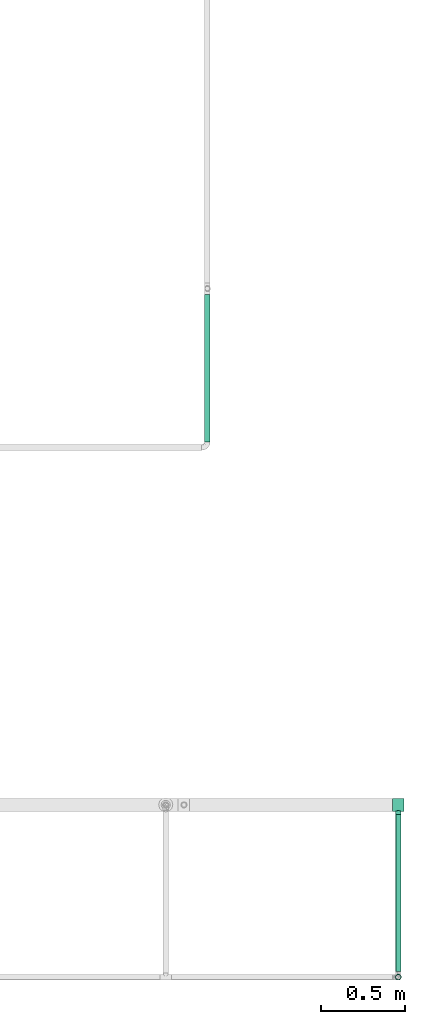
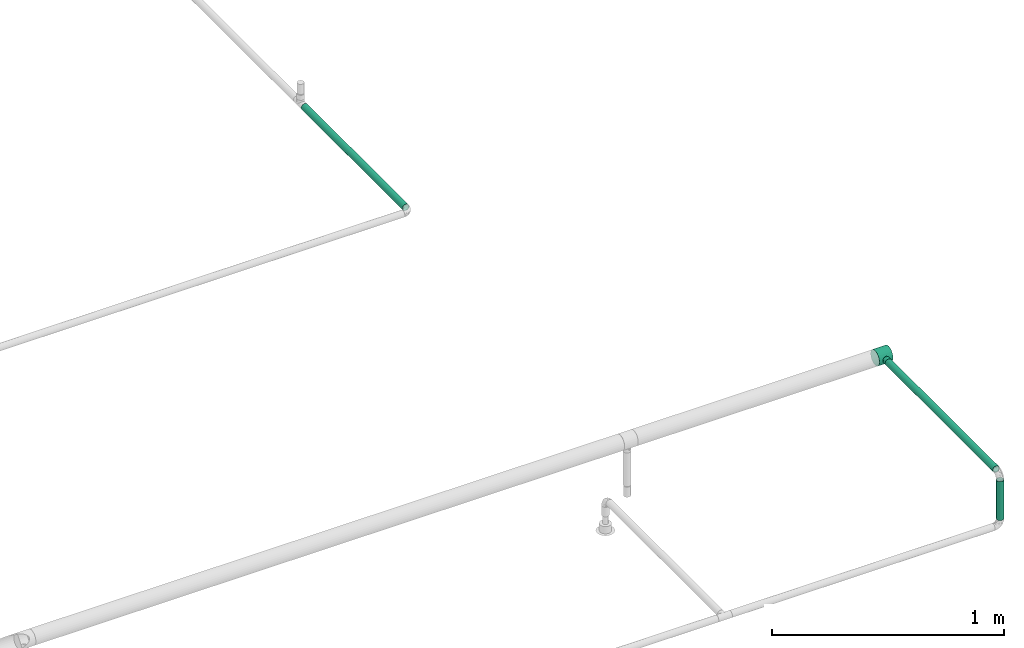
# One storey, part 15 of 45: 3 flow segments, 1 flow fitting.
"""IFC2X3 building model written with IfcOpenShell, lengths in millimetres."""

from ifc_helpers import new_model, entity, si_unit, converted_unit, derived_unit, direction, frame, origin_with_axes, origin_2d_with_axis, place, context, subcontext, project, spatial, hollow_circle, extrude, open_shell, surface_model, source, transform, mapped, type_object, element, save


model = new_model("IFC2X3")

# Units and contexts
model_context = context("Model", 3, precision=0.01, world=frame((0.0, 4.29681676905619e-09, 0.0)), true_north=direction((4.01073788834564e-13, 1.0)))
plan_context = context("Plan", 3, precision=0.01, world=frame((0.0, 4.29681676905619e-09, 0.0)), true_north=direction((4.01073788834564e-13, 1.0)))
body_context = subcontext(model_context, "Body", "Model", "MODEL_VIEW")
ifc_project = project(units=[converted_unit("PLANEANGLEUNIT", "DEGREE", entity("IfcPositiveLengthMeasure", 0.0174532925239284), si_unit("PLANEANGLEUNIT", "RADIAN"), dimensions=[0, 0, 0, 0, 0, 0, 0]), si_unit("AREAUNIT", "SQUARE_METRE"), si_unit("LENGTHUNIT", "METRE", prefix="MILLI"), si_unit("MASSUNIT", "GRAM", prefix="KILO"), si_unit("POWERUNIT", "WATT"), si_unit("PRESSUREUNIT", "PASCAL", prefix="KILO"), si_unit("FORCEUNIT", "NEWTON", prefix="KILO"), si_unit("ELECTRICVOLTAGEUNIT", "VOLT"), si_unit("ELECTRICCURRENTUNIT", "AMPERE"), si_unit("THERMODYNAMICTEMPERATUREUNIT", "DEGREE_CELSIUS"), si_unit("TIMEUNIT", "SECOND"), si_unit("VOLUMEUNIT", "CUBIC_METRE"), derived_unit("LINEARVELOCITYUNIT", [(si_unit("LENGTHUNIT", "METRE"), 1), (si_unit("TIMEUNIT", "SECOND"), -1)]), derived_unit("VOLUMETRICFLOWRATEUNIT", [(si_unit("VOLUMEUNIT", "CUBIC_METRE"), 1), (si_unit("TIMEUNIT", "SECOND"), -1)]), derived_unit("THERMALTRANSMITTANCEUNIT", [(si_unit("POWERUNIT", "WATT"), 1), (si_unit("THERMODYNAMICTEMPERATUREUNIT", "KELVIN"), -1), (si_unit("AREAUNIT", "SQUARE_METRE"), -1)]), derived_unit("SOUNDPRESSUREUNIT", [(si_unit("PRESSUREUNIT", "PASCAL"), 1)])], contexts=[model_context, plan_context])

# Site, building, storey
site_placement = place(None, frame((0.0, -4.29681676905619e-09, 0.0), z_axis=(0.0, 0.0, 1.0), x_axis=(1.0, 0.0, 0.0)))
site = spatial("IfcSite", under=ifc_project, at=site_placement, CompositionType="ELEMENT")
building_placement = place(site_placement, frame((0.0, 4.29681676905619e-09, 0.0), z_axis=(0.0, 0.0, 1.0), x_axis=(1.0, 0.0, 0.0)))
building = spatial("IfcBuilding", under=site, at=building_placement, Name="mc-building", CompositionType="ELEMENT")
storey_placement = place(building_placement, frame((0.0, 0.0, 210200.0), z_axis=(0.0, 0.0, 1.0), x_axis=(1.0, 0.0, 0.0)))
storey = spatial("IfcBuildingStorey", under=building, at=storey_placement, Name="Nivå F - 0,7 m", CompositionType="ELEMENT", Elevation=210200.0)

# Flow fitting
pipe_fitting_type = type_object("IfcPipeFittingType", Name="magi_pipe_fe_tee_centric_90_001", PredefinedType="JUNCTION")
shared_shape_1 = source(origin_with_axes(), body_context, "Body", "SurfaceModel", [
    surface_model("IfcShellBasedSurfaceModel", [(-33.8, 9.86101, -36.80177), (-33.8, 0.0, -38.1), (-33.8, 36.80177, -9.86101), (-33.8, 19.05, -32.99557), (-33.8, 32.99557, -19.05), (-33.8, 26.94077, -26.94077), (-33.8, -38.1, 0.0), (-33.8, -19.05, -32.99557), (-33.8, -26.94077, -26.94077), (-33.8, -9.86101, -36.80177), (-33.8, -32.99557, -19.05), (-33.8, -36.80177, -9.86101), (-33.8, 38.1, 0.0), (-33.8, 32.99557, 19.05), (-33.8, 36.80177, 9.86101), (-33.8, -36.80177, 9.86101), (-33.8, 19.05, 32.99557), (-33.8, 26.94077, 26.94077), (-33.8, 9.86101, 36.80177), (-33.8, 0.0, 38.1), (-33.8, -26.94077, 26.94077), (-33.8, -32.99557, 19.05), (-33.8, -9.86101, 36.80177), (-33.8, -19.05, 32.99557), (33.8, 0.0, -38.1), (33.8, 9.86101, -36.80177), (33.8, 19.05, -32.99557), (33.8, 26.94077, -26.94077), (33.8, 32.99557, -19.05), (33.8, 36.80177, -9.86101), (33.8, -38.1, 0.0), (33.8, -9.86101, -36.80177), (33.8, -26.94077, -26.94077), (33.8, -19.05, -32.99557), (33.8, -32.99557, -19.05), (33.8, -36.80177, -9.86101), (33.8, 36.80177, 9.86101), (33.8, 32.99557, 19.05), (33.8, 19.05, 32.99557), (33.8, 0.0, 38.1), (33.8, 26.94077, 26.94077), (33.8, 9.86101, 36.80177), (33.8, -26.94077, 26.94077), (33.8, -32.99557, 19.05), (33.8, -36.80177, 9.86101), (33.8, -19.05, 32.99557), (33.8, -9.86101, 36.80177), (33.8, 38.1, 0.0), (33.8, -37.45089, 4.9305), (15.86072, -37.65053, 5.83504), (16.9, -38.1, 0.0), (12.92726, -36.51183, 10.88559), (2.96752, -34.27545, 16.63742), (33.8, -34.89867, 14.4555), (8.48894, -35.18611, 14.61328), (-8.4904, -35.18646, 14.61243), (-33.8, -34.89867, 14.4555), (-15.8612, -37.65073, 5.83372), (-33.8, -37.45089, 4.9305), (-16.9, -38.1, 0.0), (-12.9317, -36.51341, 10.88031), (-2.97221, -34.27585, 16.63658), (-33.8, -37.45089, -4.9305), (-15.8612, -37.65073, -5.83372), (15.86072, -37.65053, -5.83504), (33.8, -37.45089, -4.9305), (-12.9317, -36.51341, -10.88031), (-33.8, -34.89867, -14.4555), (-8.4904, -35.18646, -14.61243), (2.96752, -34.27545, -16.63742), (8.48894, -35.18611, -14.61328), (33.8, -34.89867, -14.4555), (12.92726, -36.51183, -10.88559), (-2.97221, -34.27585, -16.63658), (4.37404, -57.15, -16.32415), (-16.9, -57.15, 0.0), (0.0, -57.15, -16.9), (14.63583, -57.15, -8.45), (8.45, -57.15, -14.63583), (16.32415, -57.15, -4.37404), (11.9501, -57.15, -11.9501), (-11.9501, -57.15, -11.9501), (-8.45, -57.15, -14.63583), (-4.37404, -57.15, -16.32415), (-14.63583, -57.15, -8.45), (-16.32415, -57.15, -4.37404), (16.9, -57.15, 0.0), (8.45, -57.15, 14.63583), (16.32415, -57.15, 4.37404), (14.63583, -57.15, 8.45), (-8.45, -57.15, 14.63583), (11.9501, -57.15, 11.9501), (4.37404, -57.15, 16.32415), (-16.32415, -57.15, 4.37404), (-11.9501, -57.15, 11.9501), (-14.63583, -57.15, 8.45), (0.0, -57.15, 16.9), (-4.37404, -57.15, 16.32415), (-16.3806, -37.87537, 2.91686), (-5.7313, -34.73116, 15.62451), (-0.00235, -34.27565, 16.637), (5.72823, -34.73078, 15.62535), (16.38036, -37.87526, 2.91752), (16.38036, -37.87526, -2.91752), (5.72823, -34.73078, -15.62535), (-0.00235, -34.27565, -16.637), (-5.7313, -34.73116, -15.62451), (-16.3806, -37.87537, -2.91686)], [open_shell([[[0, 1, 2]], [[3, 0, 2]], [[2, 4, 5]], [[3, 2, 5]], [[6, 2, 1]], [[7, 8, 9]], [[8, 1, 9]], [[10, 11, 8]], [[6, 8, 11]], [[8, 6, 1]], [[6, 12, 2]], [[13, 14, 12]], [[15, 13, 6]], [[16, 13, 15]], [[17, 13, 16]], [[18, 16, 19]], [[20, 19, 21]], [[16, 15, 21]], [[22, 19, 23]], [[20, 23, 19]], [[21, 19, 16]], [[12, 6, 13]], [[24, 25, 26]], [[24, 26, 27]], [[27, 28, 29]], [[24, 27, 30]], [[30, 27, 29]], [[31, 32, 33]], [[31, 24, 32]], [[34, 30, 35]], [[30, 34, 32]], [[24, 30, 32]], [[29, 36, 30]], [[36, 37, 30]], [[30, 37, 38]], [[38, 39, 30]], [[38, 37, 40]], [[39, 38, 41]], [[30, 42, 43]], [[44, 30, 43]], [[45, 39, 46]], [[45, 42, 30]], [[30, 39, 45]], [[36, 29, 47]], [[48, 44, 49]], [[50, 30, 48]], [[44, 51, 49]], [[43, 42, 52]], [[50, 48, 49]], [[44, 53, 51]], [[52, 54, 43]], [[42, 20, 52]], [[54, 53, 43]], [[55, 21, 56]], [[57, 58, 59]], [[6, 59, 58]], [[57, 60, 15]], [[55, 61, 21]], [[51, 53, 54]], [[15, 60, 56]], [[21, 61, 20]], [[56, 60, 55]], [[61, 52, 20]], [[57, 15, 58]], [[42, 23, 20]], [[19, 46, 39]], [[22, 45, 46]], [[18, 39, 41]], [[37, 36, 14]], [[17, 38, 40]], [[13, 40, 37]], [[41, 38, 16]], [[12, 36, 47]], [[23, 45, 22]], [[22, 46, 19]], [[18, 19, 39]], [[41, 16, 18]], [[16, 38, 17]], [[13, 17, 40]], [[14, 13, 37]], [[36, 12, 14]], [[45, 23, 42]], [[12, 47, 29]], [[29, 28, 2]], [[59, 62, 63]], [[27, 4, 28]], [[9, 24, 31]], [[0, 26, 25]], [[64, 35, 65]], [[24, 1, 25]], [[31, 33, 7]], [[27, 26, 5]], [[66, 67, 68]], [[4, 2, 28]], [[12, 29, 2]], [[27, 5, 4]], [[3, 26, 0]], [[26, 3, 5]], [[0, 25, 1]], [[9, 1, 24]], [[31, 7, 9]], [[33, 8, 7]], [[32, 34, 69]], [[70, 34, 71]], [[70, 69, 34]], [[35, 72, 71]], [[32, 69, 8]], [[30, 50, 65]], [[64, 72, 35]], [[64, 65, 50]], [[72, 70, 71]], [[73, 68, 10]], [[10, 8, 73]], [[68, 67, 10]], [[73, 8, 69]], [[66, 63, 11]], [[63, 62, 11]], [[62, 59, 6]], [[11, 67, 66]], [[32, 8, 33]], [[74, 75, 76]], [[77, 74, 78]], [[77, 79, 74]], [[77, 78, 80]], [[75, 74, 79]], [[76, 81, 82]], [[82, 83, 76]], [[84, 75, 85]], [[81, 76, 84]], [[75, 84, 76]], [[79, 86, 75]], [[87, 86, 88]], [[87, 88, 89]], [[90, 75, 87]], [[87, 89, 91]], [[90, 87, 92]], [[93, 94, 95]], [[94, 93, 90]], [[90, 96, 97]], [[93, 75, 90]], [[92, 96, 90]], [[87, 75, 86]], [[93, 98, 75]], [[60, 95, 94]], [[93, 95, 57]], [[94, 90, 55]], [[98, 59, 75]], [[57, 95, 60]], [[97, 61, 99]], [[55, 60, 94]], [[96, 52, 100]], [[87, 101, 92]], [[99, 90, 97]], [[99, 55, 90]], [[93, 57, 98]], [[92, 52, 96]], [[49, 89, 88]], [[102, 86, 50]], [[102, 49, 88]], [[91, 89, 51]], [[96, 61, 97]], [[101, 52, 92]], [[87, 54, 101]], [[87, 91, 54]], [[54, 91, 51]], [[51, 89, 49]], [[86, 102, 88]], [[100, 61, 96]], [[79, 103, 86]], [[72, 77, 80]], [[79, 77, 64]], [[80, 78, 70]], [[103, 50, 86]], [[64, 77, 72]], [[74, 69, 104]], [[70, 72, 80]], [[76, 73, 105]], [[82, 106, 83]], [[107, 75, 59]], [[104, 78, 74]], [[104, 70, 78]], [[68, 82, 81]], [[79, 64, 103]], [[63, 84, 85]], [[107, 63, 85]], [[84, 66, 81]], [[76, 69, 74]], [[83, 106, 73]], [[73, 76, 83]], [[68, 106, 82]], [[68, 81, 66]], [[66, 84, 63]], [[75, 107, 85]], [[105, 69, 76]]])]),
])
flow_fitting_placement = place(storey_placement, frame((348787.66803, 460120.00018, 2938.0), z_axis=(0.0, 0.0, -1.0), x_axis=(-1.0, 0.0, 0.0)))
element("IfcFlowFitting", 1, at=flow_fitting_placement, inside=storey, type_object=pipe_fitting_type, Name="magi_pipe_fe_tee_centric_90_001", context=body_context, shape_type="MappedRepresentation", body=[
    mapped(shared_shape_1, transform((0.0, 0.0, 0.0), scale=1.0)),
])

# Flow segments
pipe_segment_type = type_object("IfcPipeSegmentType", Name="Stålrør normaltykke", PredefinedType="RIGIDSEGMENT")
shared_shape_2 = source(origin_with_axes(), body_context, "Body", "SweptSolid", [
    extrude(hollow_circle(Radius=16.9, WallThickness=2.0, at=origin_2d_with_axis()), frame((0.0, 0.0, 0.0), z_axis=(1.0, 0.0, 0.0), x_axis=(0.0, 1.0, 0.0)), (0.0, 0.0, 1.0), 873.4),
])
flow_segment_1_placement = place(storey_placement, frame((347657.5, 463143.00156, 2810.44542), z_axis=(0.0, 2.5999999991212e-05, 0.999999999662), x_axis=(0.0, -0.999999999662, 2.5999999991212e-05)))
element("IfcFlowSegment", 2, at=flow_segment_1_placement, inside=storey, type_object=pipe_segment_type, Name="Stålrør normaltykke", context=body_context, shape_type="MappedRepresentation", body=[
    mapped(shared_shape_2, transform((0.0, 0.0, 0.0), scale=1.0)),
])
shared_shape_3 = source(origin_with_axes(), body_context, "Body", "SweptSolid", [
    extrude(hollow_circle(Radius=16.9, WallThickness=2.0, at=origin_2d_with_axis()), frame((0.0, 0.0, 0.0), z_axis=(1.0, 0.0, 0.0), x_axis=(0.0, 1.0, 0.0)), (0.0, 0.0, 1.0), 204.6),
])
flow_segment_2_placement = place(storey_placement, frame((348787.66803, 459100.00018, 2699.55488000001), z_axis=(0.0, -1.0, 0.0), x_axis=(0.0, 0.0, 1.0)))
element("IfcFlowSegment", 3, at=flow_segment_2_placement, inside=storey, type_object=pipe_segment_type, Name="Stålrør normaltykke", context=body_context, shape_type="MappedRepresentation", body=[
    mapped(shared_shape_3, transform((0.0, 0.0, 0.0), scale=1.0)),
])
shared_shape_4 = source(origin_with_axes(), body_context, "Body", "SweptSolid", [
    extrude(hollow_circle(Radius=16.9, WallThickness=2.0, at=origin_2d_with_axis()), frame((0.0, 0.0, 0.0), z_axis=(1.0, 0.0, 0.0), x_axis=(0.0, 1.0, 0.0)), (0.0, 0.0, 1.0), 929.0),
])
flow_segment_3_placement = place(storey_placement, frame((348787.66803, 459133.80018, 2938.0), z_axis=(0.0, 0.0, 1.0), x_axis=(0.0, 1.0, 0.0)))
element("IfcFlowSegment", 4, at=flow_segment_3_placement, inside=storey, type_object=pipe_segment_type, Name="Stålrør normaltykke", context=body_context, shape_type="MappedRepresentation", body=[
    mapped(shared_shape_4, transform((0.0, 0.0, 0.0), scale=1.0)),
])

save(model, "model.ifc")
